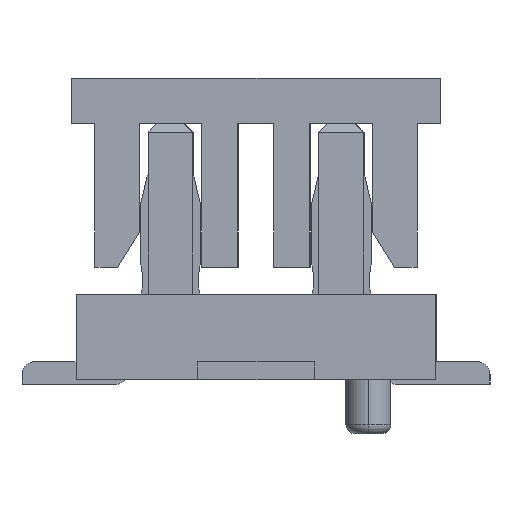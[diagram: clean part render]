
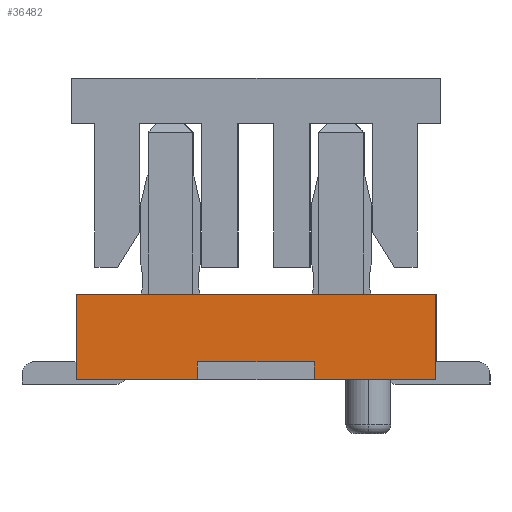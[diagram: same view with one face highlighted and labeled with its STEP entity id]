
A CAD part, left-side view. The second image highlights one B-rep face of the part: STEP entity #36482.
In plain terms, the highlighted planar face has unit normal (-1, 0, 0).
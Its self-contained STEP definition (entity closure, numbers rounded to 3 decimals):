
#3856 = VERTEX_POINT ( 'NONE', #46695 ) ;
#4961 = EDGE_CURVE ( 'NONE', #54743, #36680, #29486, .T. ) ;
#5781 = CARTESIAN_POINT ( 'NONE',  ( -4.15, -0.65, 0. ) ) ;
#9378 = ORIENTED_EDGE ( 'NONE', *, *, #105907, .T. ) ;
#13222 = CARTESIAN_POINT ( 'NONE',  ( -4.15, -0.65, 0.1 ) ) ;
#15173 = VECTOR ( 'NONE', #47988, 1000. ) ;
#15185 = CARTESIAN_POINT ( 'NONE',  ( -4.15, 1.325, 0. ) ) ;
#16453 = DIRECTION ( 'NONE',  ( 0., 1., 0. ) ) ;
#17690 = EDGE_CURVE ( 'NONE', #20642, #59093, #100464, .T. ) ;
#20413 = LINE ( 'NONE', #67491, #39005 ) ;
#20642 = VERTEX_POINT ( 'NONE', #5781 ) ;
#21520 = EDGE_LOOP ( 'NONE', ( #9378, #73431, #64507, #43640, #80114, #59692, #107595, #40699 ) ) ;
#23060 = EDGE_CURVE ( 'NONE', #65207, #50734, #25893, .T. ) ;
#23476 = CARTESIAN_POINT ( 'NONE',  ( -4.15, -2., 0.95 ) ) ;
#24002 = VECTOR ( 'NONE', #91771, 1000. ) ;
#24172 = CARTESIAN_POINT ( 'NONE',  ( -4.15, 0., 0.95 ) ) ;
#25893 = LINE ( 'NONE', #82409, #95448 ) ;
#27368 = CARTESIAN_POINT ( 'NONE',  ( -4.15, 2., 0. ) ) ;
#29486 = LINE ( 'NONE', #58351, #38384 ) ;
#30152 = EDGE_CURVE ( 'NONE', #36680, #20642, #20413, .T. ) ;
#33466 = VECTOR ( 'NONE', #84267, 1000. ) ;
#36046 = LINE ( 'NONE', #24172, #42410 ) ;
#36482 = ADVANCED_FACE ( 'NONE', ( #63529 ), #123161, .F. ) ;
#36680 = VERTEX_POINT ( 'NONE', #88384 ) ;
#38384 = VECTOR ( 'NONE', #41378, 1000. ) ;
#39005 = VECTOR ( 'NONE', #40484, 1000. ) ;
#39450 = AXIS2_PLACEMENT_3D ( 'NONE', #111274, #102460, #16453 ) ;
#40484 = DIRECTION ( 'NONE',  ( 0., 1., 0. ) ) ;
#40699 = ORIENTED_EDGE ( 'NONE', *, *, #86627, .F. ) ;
#41378 = DIRECTION ( 'NONE',  ( 0., 0., -1. ) ) ;
#42410 = VECTOR ( 'NONE', #120238, 1000. ) ;
#43640 = ORIENTED_EDGE ( 'NONE', *, *, #30152, .F. ) ;
#46695 = CARTESIAN_POINT ( 'NONE',  ( -4.15, 0.65, 0.2 ) ) ;
#47988 = DIRECTION ( 'NONE',  ( 0., 0., 1. ) ) ;
#50734 = VERTEX_POINT ( 'NONE', #98546 ) ;
#53334 = VERTEX_POINT ( 'NONE', #115427 ) ;
#54743 = VERTEX_POINT ( 'NONE', #23476 ) ;
#58351 = CARTESIAN_POINT ( 'NONE',  ( -4.15, -2., 0.475 ) ) ;
#59093 = VERTEX_POINT ( 'NONE', #113312 ) ;
#59692 = ORIENTED_EDGE ( 'NONE', *, *, #121335, .F. ) ;
#63529 = FACE_OUTER_BOUND ( 'NONE', #21520, .T. ) ;
#64507 = ORIENTED_EDGE ( 'NONE', *, *, #17690, .F. ) ;
#65207 = VERTEX_POINT ( 'NONE', #27368 ) ;
#67491 = CARTESIAN_POINT ( 'NONE',  ( -4.15, -1.325, 0. ) ) ;
#71572 = DIRECTION ( 'NONE',  ( 0., 0., 1. ) ) ;
#73431 = ORIENTED_EDGE ( 'NONE', *, *, #115113, .F. ) ;
#76875 = LINE ( 'NONE', #104533, #15173 ) ;
#80114 = ORIENTED_EDGE ( 'NONE', *, *, #4961, .F. ) ;
#82409 = CARTESIAN_POINT ( 'NONE',  ( -4.15, 2., 0.475 ) ) ;
#82418 = LINE ( 'NONE', #92463, #33466 ) ;
#84267 = DIRECTION ( 'NONE',  ( 0., 1., 0. ) ) ;
#86627 = EDGE_CURVE ( 'NONE', #53334, #65207, #118196, .T. ) ;
#88384 = CARTESIAN_POINT ( 'NONE',  ( -4.15, -2., 0. ) ) ;
#91771 = DIRECTION ( 'NONE',  ( 0., 1., 0. ) ) ;
#92463 = CARTESIAN_POINT ( 'NONE',  ( -4.15, 0., 0.2 ) ) ;
#95448 = VECTOR ( 'NONE', #120744, 1000. ) ;
#98546 = CARTESIAN_POINT ( 'NONE',  ( -4.15, 2., 0.95 ) ) ;
#100064 = VECTOR ( 'NONE', #71572, 1000. ) ;
#100464 = LINE ( 'NONE', #13222, #100064 ) ;
#102460 = DIRECTION ( 'NONE',  ( 1., 0., 0. ) ) ;
#104533 = CARTESIAN_POINT ( 'NONE',  ( -4.15, 0.65, 0.1 ) ) ;
#105907 = EDGE_CURVE ( 'NONE', #53334, #3856, #76875, .T. ) ;
#107595 = ORIENTED_EDGE ( 'NONE', *, *, #23060, .F. ) ;
#111274 = CARTESIAN_POINT ( 'NONE',  ( -4.15, 0., 0. ) ) ;
#113312 = CARTESIAN_POINT ( 'NONE',  ( -4.15, -0.65, 0.2 ) ) ;
#115113 = EDGE_CURVE ( 'NONE', #59093, #3856, #82418, .T. ) ;
#115427 = CARTESIAN_POINT ( 'NONE',  ( -4.15, 0.65, 0. ) ) ;
#118196 = LINE ( 'NONE', #15185, #24002 ) ;
#120238 = DIRECTION ( 'NONE',  ( 0., -1., 0. ) ) ;
#120744 = DIRECTION ( 'NONE',  ( 0., 0., 1. ) ) ;
#121335 = EDGE_CURVE ( 'NONE', #50734, #54743, #36046, .T. ) ;
#123161 = PLANE ( 'NONE',  #39450 ) ;
